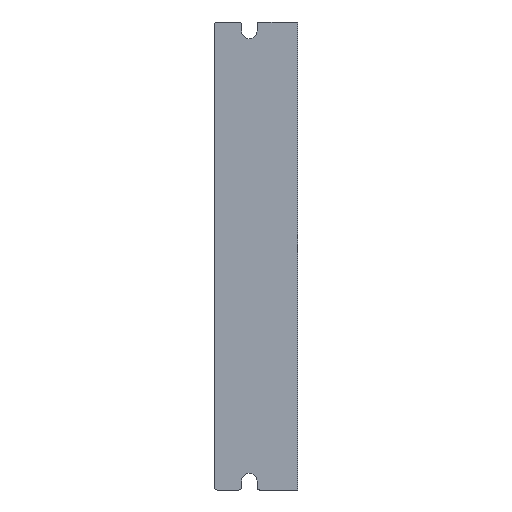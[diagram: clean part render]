
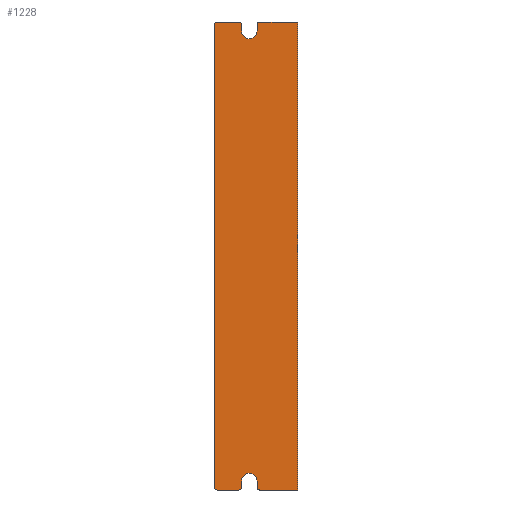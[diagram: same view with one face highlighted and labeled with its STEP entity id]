
A CAD part, left-side view. The second image highlights one B-rep face of the part: STEP entity #1228.
In plain terms, the highlighted planar face has unit normal (-1, 0, 0).
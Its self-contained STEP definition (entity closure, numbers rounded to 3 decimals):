
#17=CARTESIAN_POINT('',(0.,14.1,-86.325));
#18=DIRECTION('',(1.,0.,0.));
#19=DIRECTION('',(0.,0.,-1.));
#20=AXIS2_PLACEMENT_3D('',#17,#18,#19);
#22=CARTESIAN_POINT('',(0.,18.,-84.025));
#23=DIRECTION('',(-1.,0.,0.));
#24=DIRECTION('',(0.,-1.,0.));
#25=AXIS2_PLACEMENT_3D('',#22,#23,#24);
#27=CARTESIAN_POINT('',(0.,18.,-84.025));
#28=DIRECTION('',(-1.,0.,0.));
#29=DIRECTION('',(0.,0.,1.));
#30=AXIS2_PLACEMENT_3D('',#27,#28,#29);
#32=DIRECTION('',(0.,0.,-1.));
#33=VECTOR('',#32,2.3);
#34=CARTESIAN_POINT('',(0.,20.9,-84.025));
#35=LINE('',#34,#33);
#36=CARTESIAN_POINT('',(0.,21.9,-86.325));
#37=DIRECTION('',(1.,0.,0.));
#38=DIRECTION('',(0.,-1.,0.));
#39=AXIS2_PLACEMENT_3D('',#36,#37,#38);
#41=CARTESIAN_POINT('',(0.,30.,-86.325));
#42=DIRECTION('',(1.,0.,0.));
#43=DIRECTION('',(0.,0.,-1.));
#44=AXIS2_PLACEMENT_3D('',#41,#42,#43);
#46=CARTESIAN_POINT('',(0.,30.,86.325));
#47=DIRECTION('',(1.,0.,0.));
#48=DIRECTION('',(0.,1.,0.));
#49=AXIS2_PLACEMENT_3D('',#46,#47,#48);
#51=DIRECTION('',(0.,-1.,0.));
#52=VECTOR('',#51,8.1);
#53=CARTESIAN_POINT('',(0.,30.,87.325));
#54=LINE('',#53,#52);
#55=CARTESIAN_POINT('',(0.,21.9,86.325));
#56=DIRECTION('',(1.,0.,0.));
#57=DIRECTION('',(0.,0.,1.));
#58=AXIS2_PLACEMENT_3D('',#55,#56,#57);
#60=CARTESIAN_POINT('',(0.,18.,84.025));
#61=DIRECTION('',(-1.,0.,0.));
#62=DIRECTION('',(0.,1.,0.));
#63=AXIS2_PLACEMENT_3D('',#60,#61,#62);
#65=CARTESIAN_POINT('',(0.,18.,84.025));
#66=DIRECTION('',(-1.,0.,0.));
#67=DIRECTION('',(0.,0.,-1.));
#68=AXIS2_PLACEMENT_3D('',#65,#66,#67);
#70=DIRECTION('',(0.,0.,1.));
#71=VECTOR('',#70,2.3);
#72=CARTESIAN_POINT('',(0.,15.1,84.025));
#73=LINE('',#72,#71);
#74=CARTESIAN_POINT('',(0.,14.1,86.325));
#75=DIRECTION('',(1.,0.,0.));
#76=DIRECTION('',(0.,1.,0.));
#77=AXIS2_PLACEMENT_3D('',#74,#75,#76);
#79=DIRECTION('',(0.,-1.,0.));
#80=VECTOR('',#79,14.1);
#81=CARTESIAN_POINT('',(0.,14.1,87.325));
#82=LINE('',#81,#80);
#83=DIRECTION('',(0.,0.,-1.));
#84=VECTOR('',#83,174.65);
#85=CARTESIAN_POINT('',(0.,0.,87.325));
#86=LINE('',#85,#84);
#216=DIRECTION('',(0.,-1.,0.));
#217=VECTOR('',#216,14.1);
#218=CARTESIAN_POINT('',(0.,14.1,-87.325));
#219=LINE('',#218,#217);
#678=DIRECTION('',(0.,0.,1.));
#679=VECTOR('',#678,2.3);
#680=CARTESIAN_POINT('',(0.,20.9,84.025));
#681=LINE('',#680,#679);
#818=DIRECTION('',(0.,0.,-1.));
#819=VECTOR('',#818,172.65);
#820=CARTESIAN_POINT('',(0.,31.,86.325));
#821=LINE('',#820,#819);
#834=DIRECTION('',(0.,-1.,0.));
#835=VECTOR('',#834,8.1);
#836=CARTESIAN_POINT('',(0.,30.,-87.325));
#837=LINE('',#836,#835);
#858=DIRECTION('',(0.,0.,-1.));
#859=VECTOR('',#858,2.3);
#860=CARTESIAN_POINT('',(0.,15.1,-84.025));
#861=LINE('',#860,#859);
#863=CARTESIAN_POINT('',(0.,30.,87.325));
#865=VERTEX_POINT('',#863);
#872=CARTESIAN_POINT('',(0.,21.9,87.325));
#873=VERTEX_POINT('',#872);
#884=CARTESIAN_POINT('',(0.,0.,87.325));
#885=VERTEX_POINT('',#884);
#886=CARTESIAN_POINT('',(0.,14.1,87.325));
#887=VERTEX_POINT('',#886);
#910=CARTESIAN_POINT('',(0.,31.,86.325));
#911=VERTEX_POINT('',#910);
#914=CARTESIAN_POINT('',(0.,14.1,-87.325));
#915=CARTESIAN_POINT('',(0.,15.1,-86.325));
#916=VERTEX_POINT('',#914);
#917=VERTEX_POINT('',#915);
#918=CARTESIAN_POINT('',(0.,15.1,-84.025));
#919=VERTEX_POINT('',#918);
#920=CARTESIAN_POINT('',(0.,18.,-81.125));
#921=CARTESIAN_POINT('',(0.,20.9,-84.025));
#922=VERTEX_POINT('',#920);
#923=VERTEX_POINT('',#921);
#924=CARTESIAN_POINT('',(0.,20.9,-86.325));
#925=VERTEX_POINT('',#924);
#926=CARTESIAN_POINT('',(0.,21.9,-87.325));
#927=VERTEX_POINT('',#926);
#928=CARTESIAN_POINT('',(0.,30.,-87.325));
#929=VERTEX_POINT('',#928);
#930=CARTESIAN_POINT('',(0.,31.,-86.325));
#931=VERTEX_POINT('',#930);
#932=CARTESIAN_POINT('',(0.,20.9,86.325));
#933=VERTEX_POINT('',#932);
#934=CARTESIAN_POINT('',(0.,20.9,84.025));
#935=VERTEX_POINT('',#934);
#936=CARTESIAN_POINT('',(0.,18.,81.125));
#937=CARTESIAN_POINT('',(0.,15.1,84.025));
#938=VERTEX_POINT('',#936);
#939=VERTEX_POINT('',#937);
#940=CARTESIAN_POINT('',(0.,15.1,86.325));
#941=VERTEX_POINT('',#940);
#942=CARTESIAN_POINT('',(0.,0.,-87.325));
#943=VERTEX_POINT('',#942);
#1183=CARTESIAN_POINT('',(0.,0.,-87.325));
#1184=DIRECTION('',(-1.,0.,0.));
#1185=DIRECTION('',(0.,1.,0.));
#1186=AXIS2_PLACEMENT_3D('',#1183,#1184,#1185);
#1187=PLANE('',#1186);
#1189=ORIENTED_EDGE('',*,*,#1188,.T.);
#1191=ORIENTED_EDGE('',*,*,#1190,.F.);
#1193=ORIENTED_EDGE('',*,*,#1192,.T.);
#1195=ORIENTED_EDGE('',*,*,#1194,.T.);
#1197=ORIENTED_EDGE('',*,*,#1196,.T.);
#1199=ORIENTED_EDGE('',*,*,#1198,.T.);
#1201=ORIENTED_EDGE('',*,*,#1200,.F.);
#1203=ORIENTED_EDGE('',*,*,#1202,.T.);
#1205=ORIENTED_EDGE('',*,*,#1204,.F.);
#1206=ORIENTED_EDGE('',*,*,#1173,.T.);
#1207=ORIENTED_EDGE('',*,*,#1163,.T.);
#1209=ORIENTED_EDGE('',*,*,#1208,.T.);
#1211=ORIENTED_EDGE('',*,*,#1210,.F.);
#1213=ORIENTED_EDGE('',*,*,#1212,.T.);
#1215=ORIENTED_EDGE('',*,*,#1214,.T.);
#1217=ORIENTED_EDGE('',*,*,#1216,.T.);
#1219=ORIENTED_EDGE('',*,*,#1218,.T.);
#1221=ORIENTED_EDGE('',*,*,#1220,.T.);
#1223=ORIENTED_EDGE('',*,*,#1222,.T.);
#1225=ORIENTED_EDGE('',*,*,#1224,.F.);
#1226=EDGE_LOOP('',(#1189,#1191,#1193,#1195,#1197,#1199,#1201,#1203,#1205,#1206,
#1207,#1209,#1211,#1213,#1215,#1217,#1219,#1221,#1223,#1225));
#1227=FACE_OUTER_BOUND('',#1226,.F.);
#1228=ADVANCED_FACE('',(#1227),#1187,.T.);
#21=CIRCLE('',#20,1.);
#26=CIRCLE('',#25,2.9);
#31=CIRCLE('',#30,2.9);
#40=CIRCLE('',#39,1.);
#45=CIRCLE('',#44,1.);
#50=CIRCLE('',#49,1.);
#59=CIRCLE('',#58,1.);
#64=CIRCLE('',#63,2.9);
#69=CIRCLE('',#68,2.9);
#78=CIRCLE('',#77,1.);
#1163=EDGE_CURVE('',#865,#873,#54,.T.);
#1173=EDGE_CURVE('',#911,#865,#50,.T.);
#1188=EDGE_CURVE('',#916,#917,#21,.T.);
#1190=EDGE_CURVE('',#919,#917,#861,.T.);
#1192=EDGE_CURVE('',#919,#922,#26,.T.);
#1194=EDGE_CURVE('',#922,#923,#31,.T.);
#1196=EDGE_CURVE('',#923,#925,#35,.T.);
#1198=EDGE_CURVE('',#925,#927,#40,.T.);
#1200=EDGE_CURVE('',#929,#927,#837,.T.);
#1202=EDGE_CURVE('',#929,#931,#45,.T.);
#1204=EDGE_CURVE('',#911,#931,#821,.T.);
#1208=EDGE_CURVE('',#873,#933,#59,.T.);
#1210=EDGE_CURVE('',#935,#933,#681,.T.);
#1212=EDGE_CURVE('',#935,#938,#64,.T.);
#1214=EDGE_CURVE('',#938,#939,#69,.T.);
#1216=EDGE_CURVE('',#939,#941,#73,.T.);
#1218=EDGE_CURVE('',#941,#887,#78,.T.);
#1220=EDGE_CURVE('',#887,#885,#82,.T.);
#1222=EDGE_CURVE('',#885,#943,#86,.T.);
#1224=EDGE_CURVE('',#916,#943,#219,.T.);
